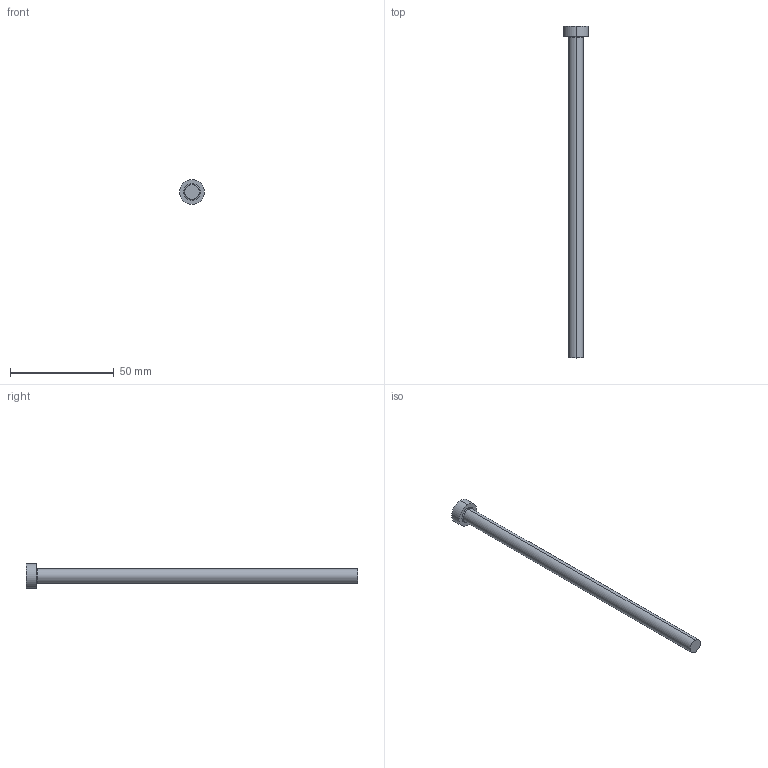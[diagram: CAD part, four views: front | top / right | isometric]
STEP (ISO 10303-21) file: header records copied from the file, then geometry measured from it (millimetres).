
FILE_DESCRIPTION (( 'STEP AP203' ), '1' );
FILE_NAME ('MC70-160.step', '2014-02-27T13:16:40', ( '' ), ( '' ), 'SwSTEP 2.0', 'SolidWorks 2009', '' );
FILE_SCHEMA (( 'CONFIG_CONTROL_DESIGN' ));
Length unit declared in the file: millimetre
Products named in the file (1): MC70-160
Bounding box: 12 x 160 x 12 mm (x, y, z)
Volume: 6531.8 mm3; surface area: 3818.7 mm2
Topology: 1 solids, 1 shells, 9 faces, 16 edges, 10 vertices
Faces by surface type: cylinder 4, plane 3, torus 2
Entity records: 303 total; most frequent: DIRECTION 48, CARTESIAN_POINT 36, ORIENTED_EDGE 32, AXIS2_PLACEMENT_3D 22, EDGE_CURVE 16, CIRCLE 12, EDGE_LOOP 10, VERTEX_POINT 10
